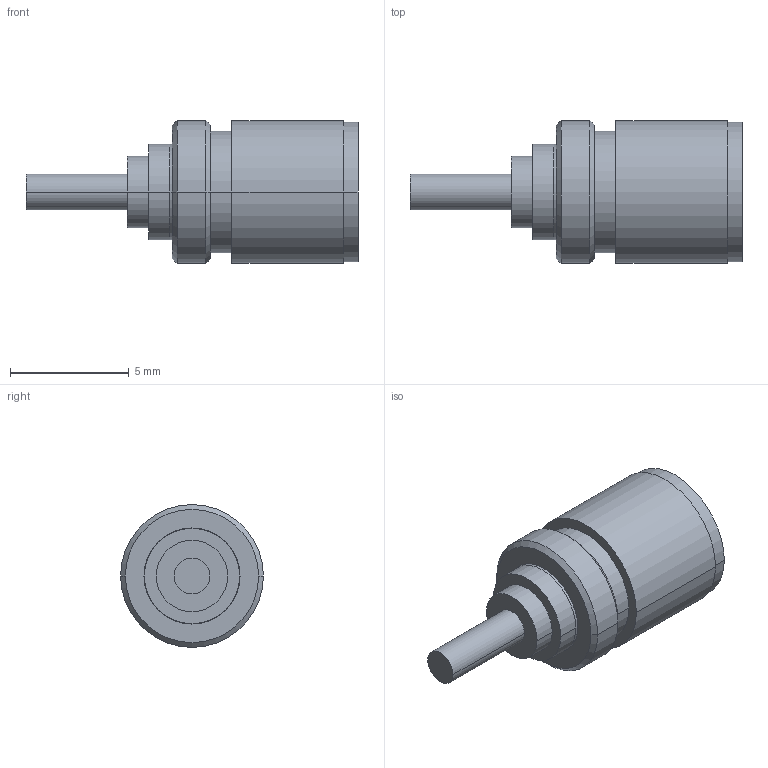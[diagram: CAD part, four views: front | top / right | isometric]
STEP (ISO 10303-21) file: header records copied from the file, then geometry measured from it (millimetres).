
FILE_DESCRIPTION((''),'2;1');
FILE_NAME('1928062','2016-10-04T',('mmagvisi'),(''),'CREO PARAMETRIC BY PTC INC, 2016050','CREO PARAMETRIC BY PTC INC, 2016050','');
FILE_SCHEMA(('CONFIG_CONTROL_DESIGN'));
Length unit declared in the file: millimetre
Products named in the file (1): 1928062
Bounding box: 13.95 x 6 x 6 mm (x, y, z)
Volume: 151.2 mm3; surface area: 330.8 mm2
Topology: 1 solids, 1 shells, 36 faces, 70 edges, 44 vertices
Faces by surface type: cylinder 18, plane 10, cone 8
Entity records: 1038 total; most frequent: DIRECTION 186, CARTESIAN_POINT 150, ORIENTED_EDGE 140, AXIS2_PLACEMENT_3D 80, EDGE_CURVE 70, COLOUR_RGB 58, VERTEX_POINT 44, EDGE_LOOP 44
